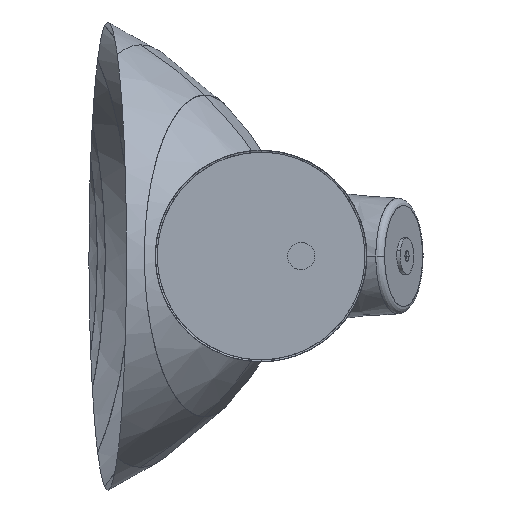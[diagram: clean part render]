
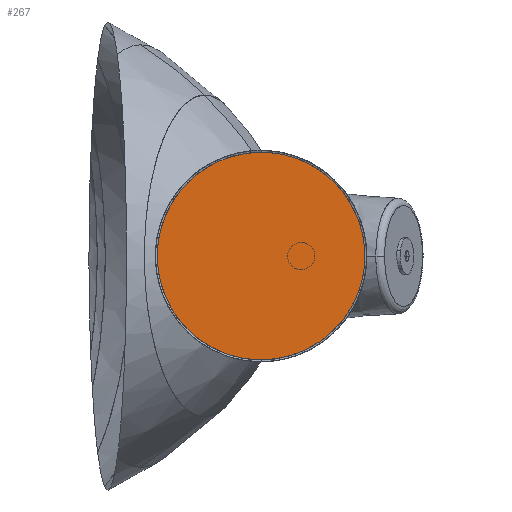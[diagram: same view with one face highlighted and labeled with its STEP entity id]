
A CAD part, front view. The second image highlights one B-rep face of the part: STEP entity #267.
In plain terms, the highlighted planar face has unit normal (0, 1, 0).
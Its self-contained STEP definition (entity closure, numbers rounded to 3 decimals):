
#23=PLANE('',#908);
#267=ADVANCED_FACE('',(#305),#23,.T.);
#305=FACE_OUTER_BOUND('',#343,.T.);
#343=EDGE_LOOP('',(#421,#422));
#421=ORIENTED_EDGE('',*,*,#557,.T.);
#422=ORIENTED_EDGE('',*,*,#558,.T.);
#557=EDGE_CURVE('',#784,#785,#666,.T.);
#558=EDGE_CURVE('',#785,#784,#667,.T.);
#666=(
BOUNDED_CURVE()
B_SPLINE_CURVE(2,(#1258,#1259,#1260,#1261,#1262,#1263,#1264),
 .UNSPECIFIED.,.F.,.F.)
B_SPLINE_CURVE_WITH_KNOTS((3,2,2,3),(-8.618,-7.854,
-6.283,-5.477),.UNSPECIFIED.)
CURVE()
GEOMETRIC_REPRESENTATION_ITEM()
RATIONAL_B_SPLINE_CURVE((1.,0.928,1.,0.707,1.,0.92,
1.))
REPRESENTATION_ITEM('')
);
#667=(
BOUNDED_CURVE()
B_SPLINE_CURVE(2,(#1265,#1266,#1267,#1268,#1269,#1270,#1271,#1272,#1273),
 .UNSPECIFIED.,.F.,.F.)
B_SPLINE_CURVE_WITH_KNOTS((3,2,2,2,3),(-5.477,-4.712,
-3.906,-3.142,-2.335),.UNSPECIFIED.)
CURVE()
GEOMETRIC_REPRESENTATION_ITEM()
RATIONAL_B_SPLINE_CURVE((1.,0.928,1.,0.85,0.854,
0.857,1.,0.92,1.))
REPRESENTATION_ITEM('')
);
#784=VERTEX_POINT('',#1256);
#785=VERTEX_POINT('',#1257);
#908=AXIS2_PLACEMENT_3D('',#1255,#919,$);
#919=DIRECTION('',(0.,1.,0.));
#1255=CARTESIAN_POINT('',(44.391,-69.364,-153.741));
#1256=CARTESIAN_POINT('',(73.397,-69.364,-44.144));
#1257=CARTESIAN_POINT('',(152.208,-69.364,-126.513));
#1258=CARTESIAN_POINT('',(73.397,-69.364,-44.144));
#1259=CARTESIAN_POINT('',(89.926,-69.364,-28.329));
#1260=CARTESIAN_POINT('',(112.803,-69.364,-28.329));
#1261=CARTESIAN_POINT('',(169.803,-69.364,-28.329));
#1262=CARTESIAN_POINT('',(169.803,-69.364,-85.329));
#1263=CARTESIAN_POINT('',(169.803,-69.364,-109.679));
#1264=CARTESIAN_POINT('',(152.208,-69.364,-126.513));
#1265=CARTESIAN_POINT('',(152.208,-69.364,-126.513));
#1266=CARTESIAN_POINT('',(135.679,-69.364,-142.329));
#1267=CARTESIAN_POINT('',(112.803,-69.364,-142.329));
#1268=CARTESIAN_POINT('',(88.452,-69.364,-142.329));
#1269=CARTESIAN_POINT('',(71.618,-69.364,-124.735));
#1270=CARTESIAN_POINT('',(55.803,-69.364,-108.205));
#1271=CARTESIAN_POINT('',(55.803,-69.364,-85.329));
#1272=CARTESIAN_POINT('',(55.803,-69.364,-60.978));
#1273=CARTESIAN_POINT('',(73.397,-69.364,-44.144));
